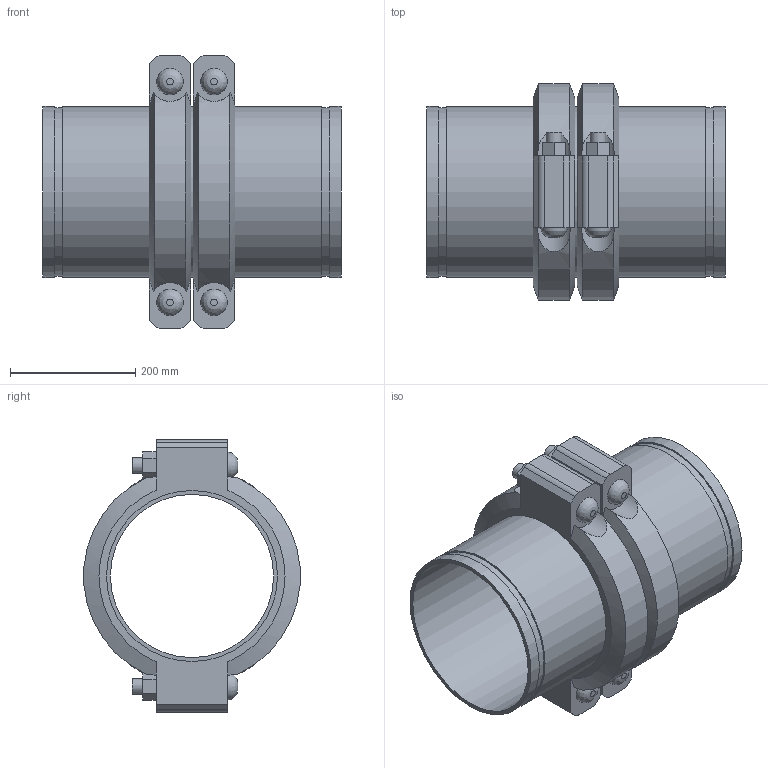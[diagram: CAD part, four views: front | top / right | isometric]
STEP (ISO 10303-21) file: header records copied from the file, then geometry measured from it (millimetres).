
FILE_DESCRIPTION(/* description */ ('VIC EXPANSION JOINT 2 COUPLINGS COMPRESSED STYLE 155 (OGS)','CAx-IF Rec.Pracs.---Representation and Presentation of Product Manufacturing Information (PMI)---4.0---2014-10-13'),/* implementation_level */ '2;1');
FILE_NAME(/* name */ 'C:\Users\kkamble\AppData\Roaming\Autodesk\ApplicationPlugins\Victaulic.Temp\A11\Victaulic_IPS_Expansion Joint_Compressed_2 Couplings_Style 155 (OGS)_10 (250).stp',/* time_stamp */ '2021-06-27T00:23:59+02:00',/* author */ ('kkamble'),/* organization */ ('Victaulic'),/* preprocessor_version */ 'ST-DEVELOPER v17.2',/* originating_system */ 'Autodesk Inventor 2019',/* authorisation */ '');
FILE_SCHEMA (('AP242_MANAGED_MODEL_BASED_3D_ENGINEERING_MIM_LF { 1 0 10303 442 1 1 4 }'));
Length unit declared in the file: inch
Products named in the file (4): 155-10.0; Nipple-10.0; Nipple-10.0_1; 077-2 Coup-10.0
Assembly tree (5 placements, depth 2):
  155-10.0
    Nipple-10.0  x2
    Nipple-10.0_1
    077-2 Coup-10.0  x2
Bounding box: 476.25 x 344.9 x 435.1 mm (x, y, z)
Volume: 8219194 mm3; surface area: 1409861.9 mm2
Topology: 5 solids, 9 shells, 158 faces, 380 edges, 268 vertices
Faces by surface type: plane 90, cylinder 56, cone 8, bspline 4
Full cylindrical faces by diameter (mm): 25.4 x8, 27.432 x4, 260.35 x3, 264.16 x2, 268.275 x6, 273.05 x13
Entity records: 3034 total; most frequent: CARTESIAN_POINT 669, DIRECTION 465, ORIENTED_EDGE 410, EDGE_CURVE 205, AXIS2_PLACEMENT_3D 188, VERTEX_POINT 146, EDGE_LOOP 111, CIRCLE 96
